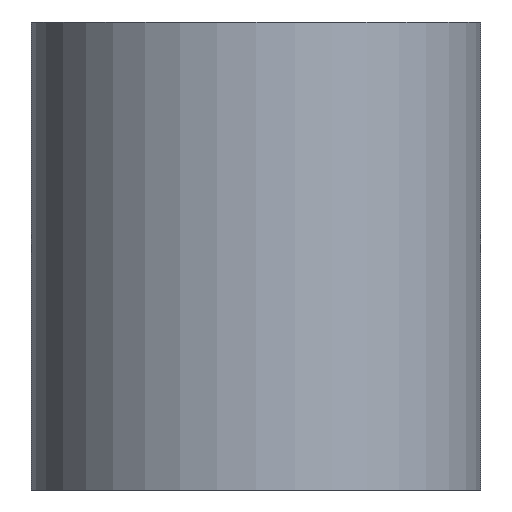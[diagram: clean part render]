
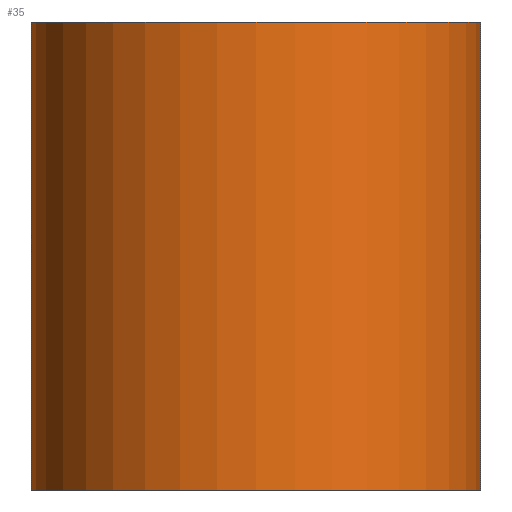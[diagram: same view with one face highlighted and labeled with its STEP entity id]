
A CAD part, left-side view. The second image highlights one B-rep face of the part: STEP entity #35.
In plain terms, the highlighted cylindrical face has radius 2.4 mm (diameter 4.8 mm), a partial arc.
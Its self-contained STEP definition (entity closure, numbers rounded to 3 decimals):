
#35 = ADVANCED_FACE('',(#36),#50,.T.);
#36 = FACE_BOUND('',#37,.F.);
#37 = EDGE_LOOP('',(#38,#73,#102,#130));
#38 = ORIENTED_EDGE('',*,*,#39,.T.);
#39 = EDGE_CURVE('',#40,#42,#44,.T.);
#40 = VERTEX_POINT('',#41);
#41 = CARTESIAN_POINT('',(14.289,5.6,34.2));
#42 = VERTEX_POINT('',#43);
#43 = CARTESIAN_POINT('',(14.289,5.6,39.2));
#44 = SURFACE_CURVE('',#45,(#49,#61),.PCURVE_S1.);
#45 = LINE('',#46,#47);
#46 = CARTESIAN_POINT('',(14.289,5.6,34.2));
#47 = VECTOR('',#48,1.);
#48 = DIRECTION('',(0.,0.,1.));
#49 = PCURVE('',#50,#55);
#50 = CYLINDRICAL_SURFACE('',#51,2.4);
#51 = AXIS2_PLACEMENT_3D('',#52,#53,#54);
#52 = CARTESIAN_POINT('',(12.5,4.,34.2));
#53 = DIRECTION('',(-0.,-0.,-1.));
#54 = DIRECTION('',(1.,0.,0.));
#55 = DEFINITIONAL_REPRESENTATION('',(#56),#60);
#56 = LINE('',#57,#58);
#57 = CARTESIAN_POINT('',(-0.73,0.));
#58 = VECTOR('',#59,1.);
#59 = DIRECTION('',(-0.,-1.));
#60 = ( GEOMETRIC_REPRESENTATION_CONTEXT(2) 
PARAMETRIC_REPRESENTATION_CONTEXT() REPRESENTATION_CONTEXT('2D SPACE',''
  ) );
#61 = PCURVE('',#62,#67);
#62 = PLANE('',#63);
#63 = AXIS2_PLACEMENT_3D('',#64,#65,#66);
#64 = CARTESIAN_POINT('',(14.289,5.6,34.2));
#65 = DIRECTION('',(0.,1.,0.));
#66 = DIRECTION('',(1.,0.,0.));
#67 = DEFINITIONAL_REPRESENTATION('',(#68),#72);
#68 = LINE('',#69,#70);
#69 = CARTESIAN_POINT('',(0.,0.));
#70 = VECTOR('',#71,1.);
#71 = DIRECTION('',(0.,-1.));
#72 = ( GEOMETRIC_REPRESENTATION_CONTEXT(2) 
PARAMETRIC_REPRESENTATION_CONTEXT() REPRESENTATION_CONTEXT('2D SPACE',''
  ) );
#73 = ORIENTED_EDGE('',*,*,#74,.T.);
#74 = EDGE_CURVE('',#42,#75,#77,.T.);
#75 = VERTEX_POINT('',#76);
#76 = CARTESIAN_POINT('',(14.289,2.4,39.2));
#77 = SURFACE_CURVE('',#78,(#83,#90),.PCURVE_S1.);
#78 = CIRCLE('',#79,2.4);
#79 = AXIS2_PLACEMENT_3D('',#80,#81,#82);
#80 = CARTESIAN_POINT('',(12.5,4.,39.2));
#81 = DIRECTION('',(0.,0.,1.));
#82 = DIRECTION('',(1.,0.,0.));
#83 = PCURVE('',#50,#84);
#84 = DEFINITIONAL_REPRESENTATION('',(#85),#89);
#85 = LINE('',#86,#87);
#86 = CARTESIAN_POINT('',(-0.,-5.));
#87 = VECTOR('',#88,1.);
#88 = DIRECTION('',(-1.,0.));
#89 = ( GEOMETRIC_REPRESENTATION_CONTEXT(2) 
PARAMETRIC_REPRESENTATION_CONTEXT() REPRESENTATION_CONTEXT('2D SPACE',''
  ) );
#90 = PCURVE('',#91,#96);
#91 = PLANE('',#92);
#92 = AXIS2_PLACEMENT_3D('',#93,#94,#95);
#93 = CARTESIAN_POINT('',(45.75,4.,39.2));
#94 = DIRECTION('',(0.,0.,1.));
#95 = DIRECTION('',(1.,0.,0.));
#96 = DEFINITIONAL_REPRESENTATION('',(#97),#101);
#97 = CIRCLE('',#98,2.4);
#98 = AXIS2_PLACEMENT_2D('',#99,#100);
#99 = CARTESIAN_POINT('',(-33.25,0.));
#100 = DIRECTION('',(1.,0.));
#101 = ( GEOMETRIC_REPRESENTATION_CONTEXT(2) 
PARAMETRIC_REPRESENTATION_CONTEXT() REPRESENTATION_CONTEXT('2D SPACE',''
  ) );
#102 = ORIENTED_EDGE('',*,*,#103,.F.);
#103 = EDGE_CURVE('',#104,#75,#106,.T.);
#104 = VERTEX_POINT('',#105);
#105 = CARTESIAN_POINT('',(14.289,2.4,34.2));
#106 = SURFACE_CURVE('',#107,(#111,#118),.PCURVE_S1.);
#107 = LINE('',#108,#109);
#108 = CARTESIAN_POINT('',(14.289,2.4,34.2));
#109 = VECTOR('',#110,1.);
#110 = DIRECTION('',(0.,0.,1.));
#111 = PCURVE('',#50,#112);
#112 = DEFINITIONAL_REPRESENTATION('',(#113),#117);
#113 = LINE('',#114,#115);
#114 = CARTESIAN_POINT('',(-5.553,0.));
#115 = VECTOR('',#116,1.);
#116 = DIRECTION('',(-0.,-1.));
#117 = ( GEOMETRIC_REPRESENTATION_CONTEXT(2) 
PARAMETRIC_REPRESENTATION_CONTEXT() REPRESENTATION_CONTEXT('2D SPACE',''
  ) );
#118 = PCURVE('',#119,#124);
#119 = PLANE('',#120);
#120 = AXIS2_PLACEMENT_3D('',#121,#122,#123);
#121 = CARTESIAN_POINT('',(14.289,2.4,34.2));
#122 = DIRECTION('',(0.,1.,0.));
#123 = DIRECTION('',(1.,0.,0.));
#124 = DEFINITIONAL_REPRESENTATION('',(#125),#129);
#125 = LINE('',#126,#127);
#126 = CARTESIAN_POINT('',(0.,0.));
#127 = VECTOR('',#128,1.);
#128 = DIRECTION('',(0.,-1.));
#129 = ( GEOMETRIC_REPRESENTATION_CONTEXT(2) 
PARAMETRIC_REPRESENTATION_CONTEXT() REPRESENTATION_CONTEXT('2D SPACE',''
  ) );
#130 = ORIENTED_EDGE('',*,*,#131,.F.);
#131 = EDGE_CURVE('',#40,#104,#132,.T.);
#132 = SURFACE_CURVE('',#133,(#138,#145),.PCURVE_S1.);
#133 = CIRCLE('',#134,2.4);
#134 = AXIS2_PLACEMENT_3D('',#135,#136,#137);
#135 = CARTESIAN_POINT('',(12.5,4.,34.2));
#136 = DIRECTION('',(0.,0.,1.));
#137 = DIRECTION('',(1.,0.,0.));
#138 = PCURVE('',#50,#139);
#139 = DEFINITIONAL_REPRESENTATION('',(#140),#144);
#140 = LINE('',#141,#142);
#141 = CARTESIAN_POINT('',(-0.,0.));
#142 = VECTOR('',#143,1.);
#143 = DIRECTION('',(-1.,0.));
#144 = ( GEOMETRIC_REPRESENTATION_CONTEXT(2) 
PARAMETRIC_REPRESENTATION_CONTEXT() REPRESENTATION_CONTEXT('2D SPACE',''
  ) );
#145 = PCURVE('',#146,#151);
#146 = PLANE('',#147);
#147 = AXIS2_PLACEMENT_3D('',#148,#149,#150);
#148 = CARTESIAN_POINT('',(45.75,4.,34.2));
#149 = DIRECTION('',(0.,0.,1.));
#150 = DIRECTION('',(1.,0.,0.));
#151 = DEFINITIONAL_REPRESENTATION('',(#152),#156);
#152 = CIRCLE('',#153,2.4);
#153 = AXIS2_PLACEMENT_2D('',#154,#155);
#154 = CARTESIAN_POINT('',(-33.25,0.));
#155 = DIRECTION('',(1.,0.));
#156 = ( GEOMETRIC_REPRESENTATION_CONTEXT(2) 
PARAMETRIC_REPRESENTATION_CONTEXT() REPRESENTATION_CONTEXT('2D SPACE',''
  ) );
